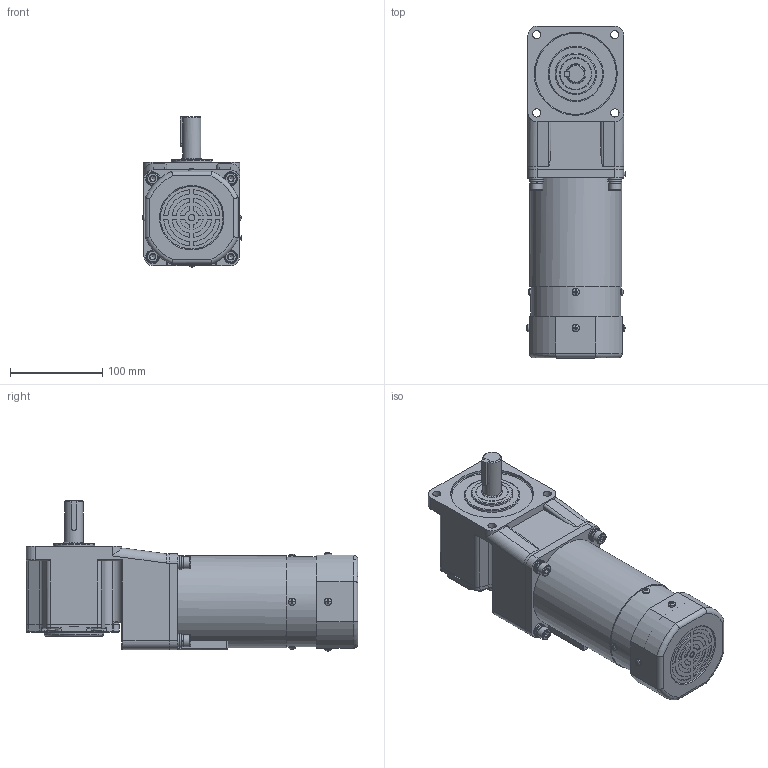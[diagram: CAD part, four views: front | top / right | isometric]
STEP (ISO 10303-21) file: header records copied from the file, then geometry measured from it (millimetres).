
FILE_DESCRIPTION(/* description */ (''),/* implementation_level */ '2;1');
FILE_NAME(/* name */ '100+直角中实-刹车风叶-140W.stp',/* time_stamp */ '2022-11-01T13:50:54+08:00',/* author */ (''),/* organization */ (''),/* preprocessor_version */ 'ST-DEVELOPER v16.7',/* originating_system */ 'SIEMENS PLM Software NX 1899',/* authorisation */ '');
FILE_SCHEMA (('AP203_CONFIGURATION_CONTROLLED_3D_DESIGN_OF_MECHANICAL_PARTS_AND_ASSEMBLIES_MIM_LF { 1 0 10303 403 2 1 2}'));
Length unit declared in the file: millimetre
Products named in the file (1): yf1854BC0762nk9y
Bounding box: 107.66 x 360.5 x 163.08 mm (x, y, z)
Volume: 3127508.9 mm3; surface area: 226265.7 mm2
Topology: 15 solids, 15 shells, 825 faces, 1998 edges, 1260 vertices
Faces by surface type: plane 492, cylinder 223, torus 54, cone 43, bspline 9, sphere 4
Full cylindrical faces by diameter (mm): 4 x4, 4.8 x1, 6 x8, 6.8 x4, 7 x1, 7.76 x4, 8 x8, 8.4 x4, 9 x8, 9.5 x4, 13 x4, 14 x4, 15 x4, 20 x1, 22 x1, 35 x1, 45 x1, 60 x1, 65 x1, 77 x1, 90 x1, 97.5 x1, 98 x2, 100 x1
Entity records: 25327 total; most frequent: CARTESIAN_POINT 5352, DIRECTION 3950, ORIENTED_EDGE 3642, EDGE_CURVE 1821, AXIS2_PLACEMENT_3D 1487, VERTEX_POINT 1207, EDGE_LOOP 1030, LINE 976
